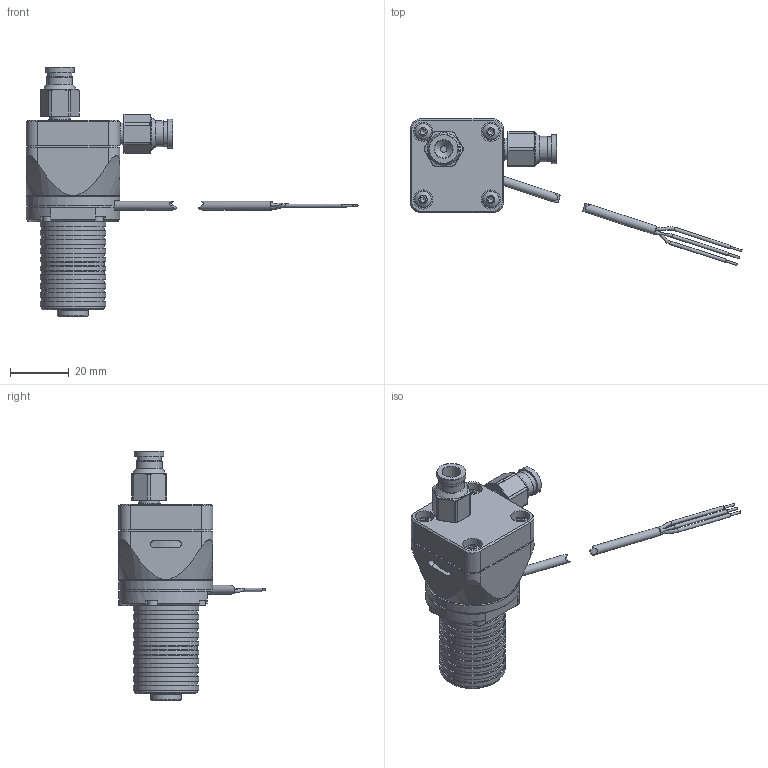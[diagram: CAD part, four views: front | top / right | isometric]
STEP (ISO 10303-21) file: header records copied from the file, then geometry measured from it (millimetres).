
FILE_DESCRIPTION (( 'STEP AP203' ), '1' );
FILE_NAME ('R404 rev 3.STEP', '2020-06-17T14:26:09', ( '' ), ( '' ), 'SwSTEP 2.0', 'SolidWorks 2016', '' );
FILE_SCHEMA (( 'CONFIG_CONTROL_DESIGN' ));
Length unit declared in the file: millimetre
Products named in the file (9): P-0974; P-1336; P-0978_M5; P-1284_M2x12 Screw; P-0081_B18.3.4M - 3 x 0.5 x 5 SBHCS --C; R404 rev 3; P-0009_One Hole; P-0987; P-0873
Assembly tree (16 placements, depth 2):
  R404 rev 3
    P-0974
    P-0009_One Hole
    P-0081_B18.3.4M - 3 x 0.5 x 5 SBHCS --C  x4
    P-1284_M2x12 Screw  x5
    P-0987
    P-0978_M5
    P-1336  x2
    P-0873
Bounding box: 112.84 x 50.05 x 84.77 mm (x, y, z)
Volume: 29400.7 mm3; surface area: 22209.3 mm2
Topology: 19 solids, 19 shells, 666 faces, 1476 edges, 882 vertices
Faces by surface type: plane 264, cylinder 204, cone 83, sphere 52, torus 43, bspline 20
Full cylindrical faces by diameter (mm): 0.8 x6, 1.2 x3, 1.6 x5, 2 x5, 2.1 x10, 2.2 x2, 2.5 x4, 3 x6, 3.2 x4, 3.8 x5, 4 x3, 4.2 x2, 5 x2, 5.2 x2, 5.7 x4, 6.2 x2, 6.5 x4, 7 x1, 7.2 x2, 7.5 x2, 8.3 x2, 8.7 x2, 9 x1, 9.9 x2, 10.6 x2, 14 x1, 20.1 x1, 21.5 x10, 22 x2, 22.3 x10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
Entity records: 13175 total; most frequent: CARTESIAN_POINT 3220, DIRECTION 1964, ORIENTED_EDGE 1518, AXIS2_PLACEMENT_3D 840, EDGE_CURVE 759, EDGE_LOOP 641, VERTEX_POINT 538, FACE_OUTER_BOUND 519
